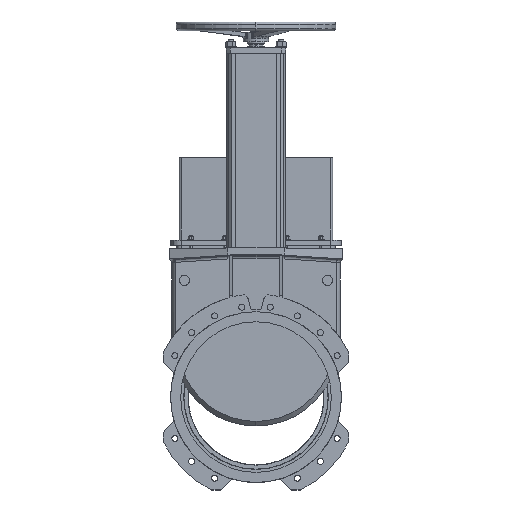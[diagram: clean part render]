
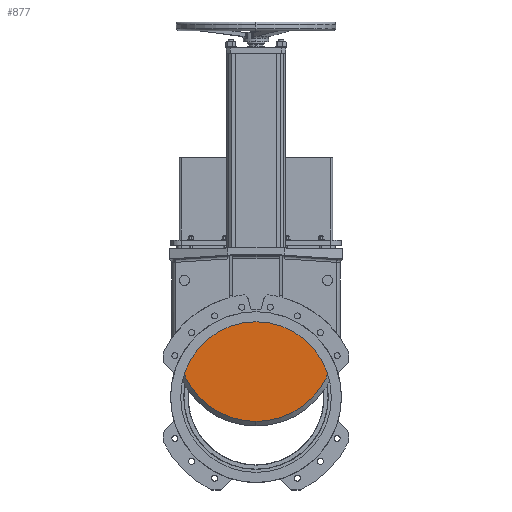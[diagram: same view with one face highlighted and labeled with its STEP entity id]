
A CAD part, left-side view. The second image highlights one B-rep face of the part: STEP entity #877.
In plain terms, the highlighted planar face has unit normal (-1, 0, 0).
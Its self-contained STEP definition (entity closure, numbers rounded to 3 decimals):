
#877=ADVANCED_FACE('',(#2871),#2872,.T.);
#2871=FACE_OUTER_BOUND('',#5656,.T.);
#2872=PLANE('',#5657);
#5656=EDGE_LOOP('',(#15494,#15495,#15496,#15497,#15498,#15499));
#5657=AXIS2_PLACEMENT_3D('',#15500,#15501,#15502);
#15494=ORIENTED_EDGE('',*,*,#21471,.F.);
#15495=ORIENTED_EDGE('',*,*,#22178,.T.);
#15496=ORIENTED_EDGE('',*,*,#23052,.F.);
#15497=ORIENTED_EDGE('',*,*,#22171,.F.);
#15498=ORIENTED_EDGE('',*,*,#22181,.F.);
#15499=ORIENTED_EDGE('',*,*,#23053,.F.);
#15500=CARTESIAN_POINT('',(-10.,0.,955.003));
#15501=DIRECTION('',(-1.,0.,0.));
#15502=DIRECTION('',(0.,1.,0.));
#21471=EDGE_CURVE('',#25486,#25471,#25488,.T.);
#22171=EDGE_CURVE('',#26794,#26785,#26796,.T.);
#22178=EDGE_CURVE('',#25486,#26807,#26809,.T.);
#22181=EDGE_CURVE('',#26812,#26794,#26814,.T.);
#23052=EDGE_CURVE('',#26785,#26807,#28214,.T.);
#23053=EDGE_CURVE('',#25471,#26812,#28215,.T.);
#25471=VERTEX_POINT('',#31821);
#25486=VERTEX_POINT('',#31869);
#25488=CIRCLE('',#31900,328.5);
#26785=VERTEX_POINT('',#34282);
#26794=VERTEX_POINT('',#34326);
#26796=CIRCLE('',#34362,312.);
#26807=VERTEX_POINT('',#34376);
#26809=LINE('',#34411,#34412);
#26812=VERTEX_POINT('',#34416);
#26814=LINE('',#34448,#34449);
#28214=CIRCLE('',#38856,312.);
#28215=CIRCLE('',#38857,328.5);
#31821=CARTESIAN_POINT('',(-10.,0.,328.5));
#31869=CARTESIAN_POINT('',(-10.,297.702,138.874));
#31900=AXIS2_PLACEMENT_3D('',#43991,#43992,#43993);
#34282=CARTESIAN_POINT('',(-10.,0.,-96.997));
#34326=CARTESIAN_POINT('',(-10.,-297.702,121.634));
#34362=AXIS2_PLACEMENT_3D('',#45301,#45302,#45303);
#34376=CARTESIAN_POINT('',(-10.,297.702,121.634));
#34411=CARTESIAN_POINT('',(-10.,297.702,955.003));
#34412=VECTOR('',#45313,10.);
#34416=CARTESIAN_POINT('',(-10.,-297.702,138.874));
#34448=CARTESIAN_POINT('',(-10.,-297.702,955.003));
#34449=VECTOR('',#45315,10.);
#38856=AXIS2_PLACEMENT_3D('',#46657,#46658,#46659);
#38857=AXIS2_PLACEMENT_3D('',#46660,#46661,#46662);
#43991=CARTESIAN_POINT('',(-10.,0.,0.));
#43992=DIRECTION('',(1.,0.,0.));
#43993=DIRECTION('',(0.,0.,1.));
#45301=CARTESIAN_POINT('',(-10.,0.,215.003));
#45302=DIRECTION('',(1.,0.,0.));
#45303=DIRECTION('',(0.,0.,-1.));
#45313=DIRECTION('',(0.,0.,-1.));
#45315=DIRECTION('',(0.,0.,-1.));
#46657=CARTESIAN_POINT('',(-10.,0.,215.003));
#46658=DIRECTION('',(1.,0.,0.));
#46659=DIRECTION('',(0.,0.,-1.));
#46660=CARTESIAN_POINT('',(-10.,0.,0.));
#46661=DIRECTION('',(1.,0.,0.));
#46662=DIRECTION('',(0.,0.,1.));
